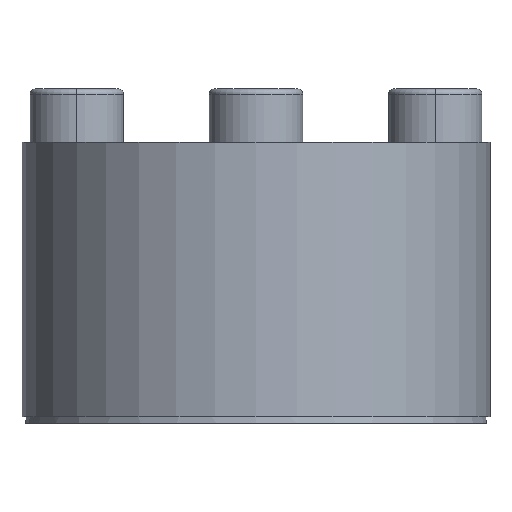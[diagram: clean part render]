
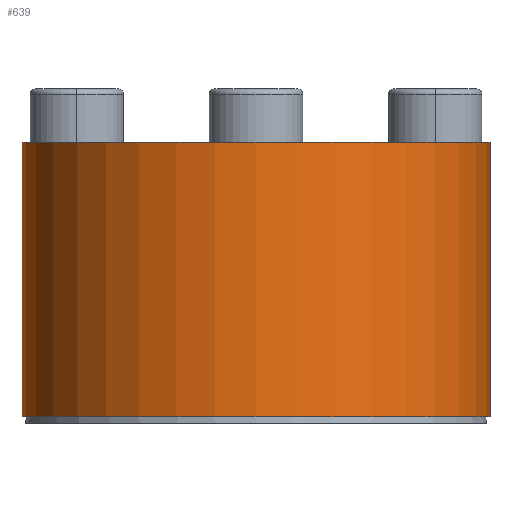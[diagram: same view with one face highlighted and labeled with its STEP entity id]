
A CAD part, front view. The second image highlights one B-rep face of the part: STEP entity #639.
In plain terms, the highlighted cylindrical face has radius 17.5 mm (diameter 35 mm), a partial arc.
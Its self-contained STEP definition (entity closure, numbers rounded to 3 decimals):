
#96 = VERTEX_POINT ( 'NONE', #1541 ) ;
#100 = CARTESIAN_POINT ( 'NONE',  ( -17.5, 0., 0.488 ) ) ;
#267 = ORIENTED_EDGE ( 'NONE', *, *, #3729, .F. ) ;
#303 = AXIS2_PLACEMENT_3D ( 'NONE', #2967, #3513, #2077 ) ;
#639 = ADVANCED_FACE ( 'NONE', ( #4606 ), #5398, .T. ) ;
#730 = CARTESIAN_POINT ( 'NONE',  ( 17.5, 0., 0.488 ) ) ;
#734 = EDGE_CURVE ( 'NONE', #799, #96, #3219, .T. ) ;
#799 = VERTEX_POINT ( 'NONE', #730 ) ;
#877 = EDGE_LOOP ( 'NONE', ( #267, #2460, #5056, #3345 ) ) ;
#884 = VERTEX_POINT ( 'NONE', #100 ) ;
#908 = DIRECTION ( 'NONE',  ( 0., 0., 1. ) ) ;
#974 = CARTESIAN_POINT ( 'NONE',  ( 0., 0., 20.988 ) ) ;
#1065 = CARTESIAN_POINT ( 'NONE',  ( 17.5, 0., 0.488 ) ) ;
#1497 = EDGE_CURVE ( 'NONE', #799, #884, #4308, .T. ) ;
#1541 = CARTESIAN_POINT ( 'NONE',  ( 17.5, 0., 20.988 ) ) ;
#1547 = DIRECTION ( 'NONE',  ( -1., 0., 0. ) ) ;
#1652 = DIRECTION ( 'NONE',  ( 1., 0., 0. ) ) ;
#1855 = CARTESIAN_POINT ( 'NONE',  ( 0., 0., 0.488 ) ) ;
#1862 = DIRECTION ( 'NONE',  ( 0., 0., 1. ) ) ;
#2072 = LINE ( 'NONE', #4250, #5026 ) ;
#2077 = DIRECTION ( 'NONE',  ( -1., 0., 0. ) ) ;
#2460 = ORIENTED_EDGE ( 'NONE', *, *, #1497, .F. ) ;
#2967 = CARTESIAN_POINT ( 'NONE',  ( 0., 0., 0.488 ) ) ;
#3219 = LINE ( 'NONE', #1065, #5997 ) ;
#3345 = ORIENTED_EDGE ( 'NONE', *, *, #7139, .T. ) ;
#3513 = DIRECTION ( 'NONE',  ( 0., 0., -1. ) ) ;
#3729 = EDGE_CURVE ( 'NONE', #884, #5505, #2072, .T. ) ;
#4250 = CARTESIAN_POINT ( 'NONE',  ( -17.5, 0., 0.488 ) ) ;
#4308 = CIRCLE ( 'NONE', #303, 17.5 ) ;
#4606 = FACE_OUTER_BOUND ( 'NONE', #877, .T. ) ;
#4763 = DIRECTION ( 'NONE',  ( 0., 0., 1. ) ) ;
#4862 = DIRECTION ( 'NONE',  ( 0., 0., -1. ) ) ;
#5026 = VECTOR ( 'NONE', #4763, 1000. ) ;
#5056 = ORIENTED_EDGE ( 'NONE', *, *, #734, .T. ) ;
#5398 = CYLINDRICAL_SURFACE ( 'NONE', #5942, 17.5 ) ;
#5505 = VERTEX_POINT ( 'NONE', #6485 ) ;
#5565 = AXIS2_PLACEMENT_3D ( 'NONE', #974, #4862, #1547 ) ;
#5860 = CIRCLE ( 'NONE', #5565, 17.5 ) ;
#5942 = AXIS2_PLACEMENT_3D ( 'NONE', #1855, #1862, #1652 ) ;
#5997 = VECTOR ( 'NONE', #908, 1000. ) ;
#6485 = CARTESIAN_POINT ( 'NONE',  ( -17.5, 0., 20.988 ) ) ;
#7139 = EDGE_CURVE ( 'NONE', #96, #5505, #5860, .T. ) ;
